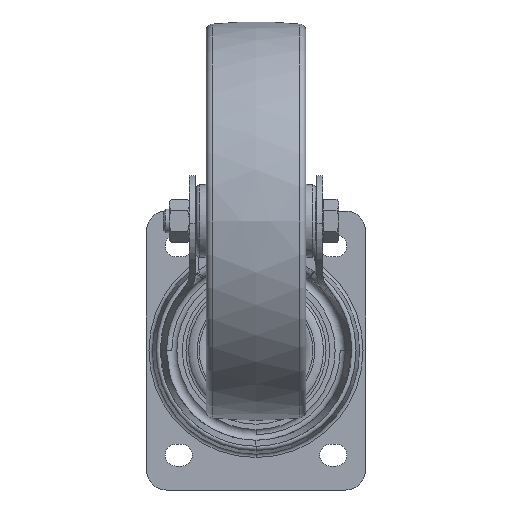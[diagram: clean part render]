
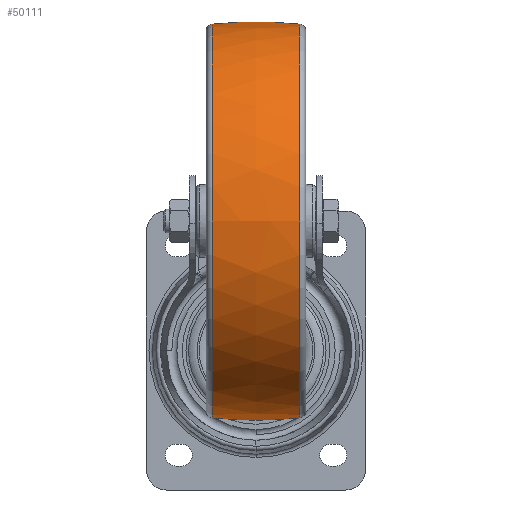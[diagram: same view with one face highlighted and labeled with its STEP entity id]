
A CAD part, front view. The second image highlights one B-rep face of the part: STEP entity #50111.
In plain terms, the highlighted free-form (B-spline) face has degree [3, 3] with [7, 4] control points.
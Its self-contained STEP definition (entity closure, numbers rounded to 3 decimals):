
#914 = DIRECTION ( 'NONE',  ( 0., 1., 0. ) ) ;
#1079 = DIRECTION ( 'NONE',  ( 1., 0., 0. ) ) ;
#2274 = CARTESIAN_POINT ( 'NONE',  ( 7.618, 100.237, -6.306 ) ) ;
#2619 = CIRCLE ( 'NONE', #40605, 98.799 ) ;
#2656 = CARTESIAN_POINT ( 'NONE',  ( -22.755, -102.321, 54.423 ) ) ;
#2663 = VERTEX_POINT ( 'NONE', #57186 ) ;
#2852 = CARTESIAN_POINT ( 'NONE',  ( -22.755, -98.507, -6.198 ) ) ;
#3687 = DIRECTION ( 'NONE',  ( 0.109, -0.994, 0. ) ) ;
#5374 = DIRECTION ( 'NONE',  ( 1., 0., 0. ) ) ;
#5404 = AXIS2_PLACEMENT_3D ( 'NONE', #54007, #5374, #914 ) ;
#5737 = CARTESIAN_POINT ( 'NONE',  ( -21.883, 0., 0. ) ) ;
#6261 = ORIENTED_EDGE ( 'NONE', *, *, #34081, .F. ) ;
#7121 = CARTESIAN_POINT ( 'NONE',  ( -7.618, -100.237, -6.306 ) ) ;
#7704 =( BOUNDED_SURFACE ( )  B_SPLINE_SURFACE ( 3, 3, ( 
 ( #50901, #28738, #2274, #51494 ),
 ( #19724, #55750, #10798, #24107 ),
 ( #55190, #41979, #33397, #37669 ),
 ( #37860, #24881, #42549, #42359 ),
 ( #11174, #11360, #29119, #33596 ),
 ( #2656, #42170, #51102, #15833 ),
 ( #2852, #7121, #16021, #55937 ) ),
 .UNSPECIFIED., .F., .F., .F. ) 
 B_SPLINE_SURFACE_WITH_KNOTS ( ( 4, 3, 4 ),
 ( 4, 4 ),
 ( 0., 1., 2. ),
 ( 0., 1. ),
 .UNSPECIFIED. ) 
 GEOMETRIC_REPRESENTATION_ITEM ( )  RATIONAL_B_SPLINE_SURFACE ( (
 ( 1.191, 1.186, 1.186, 1.191),
 ( 0.941, 0.937, 0.937, 0.941),
 ( 0.941, 0.937, 0.937, 0.941),
 ( 1.191, 1.186, 1.186, 1.191),
 ( 0.941, 0.937, 0.937, 0.941),
 ( 0.941, 0.937, 0.937, 0.941),
 ( 1.191, 1.186, 1.186, 1.191) ) ) 
 REPRESENTATION_ITEM ( '' )  SURFACE ( )  );
#9602 = CARTESIAN_POINT ( 'NONE',  ( -21.883, -98.799, 0. ) ) ;
#10798 = CARTESIAN_POINT ( 'NONE',  ( 7.618, 104.117, 55.379 ) ) ;
#11174 = CARTESIAN_POINT ( 'NONE',  ( -22.755, -60.741, 98.701 ) ) ;
#11360 = CARTESIAN_POINT ( 'NONE',  ( -7.618, -61.807, 100.435 ) ) ;
#13348 = FACE_OUTER_BOUND ( 'NONE', #43746, .T. ) ;
#15833 = CARTESIAN_POINT ( 'NONE',  ( 22.755, -102.321, 54.423 ) ) ;
#16021 = CARTESIAN_POINT ( 'NONE',  ( 7.618, -100.237, -6.306 ) ) ;
#19103 = VERTEX_POINT ( 'NONE', #54308 ) ;
#19724 = CARTESIAN_POINT ( 'NONE',  ( -22.755, 102.321, 54.423 ) ) ;
#22567 = ORIENTED_EDGE ( 'NONE', *, *, #27977, .F. ) ;
#24107 = CARTESIAN_POINT ( 'NONE',  ( 22.755, 102.321, 54.423 ) ) ;
#24881 = CARTESIAN_POINT ( 'NONE',  ( -7.618, 0., 100.435 ) ) ;
#25887 = CARTESIAN_POINT ( 'NONE',  ( 0., 100., 0. ) ) ;
#26085 = EDGE_CURVE ( 'NONE', #2663, #35345, #2619, .T. ) ;
#27977 = EDGE_CURVE ( 'NONE', #19103, #32377, #30118, .T. ) ;
#28581 = AXIS2_PLACEMENT_3D ( 'NONE', #25887, #34797, #3687 ) ;
#28738 = CARTESIAN_POINT ( 'NONE',  ( -7.618, 100.237, -6.306 ) ) ;
#29074 = DIRECTION ( 'NONE',  ( 0., 1., 0. ) ) ;
#29119 = CARTESIAN_POINT ( 'NONE',  ( 7.618, -61.807, 100.435 ) ) ;
#29168 = CARTESIAN_POINT ( 'NONE',  ( 21.883, -98.799, 0. ) ) ;
#30118 = CIRCLE ( 'NONE', #5404, 98.799 ) ;
#30906 = CIRCLE ( 'NONE', #56512, 200. ) ;
#31881 = DIRECTION ( 'NONE',  ( 0.109, 0.994, 0. ) ) ;
#32377 = VERTEX_POINT ( 'NONE', #29168 ) ;
#33397 = CARTESIAN_POINT ( 'NONE',  ( 7.618, 61.807, 100.435 ) ) ;
#33596 = CARTESIAN_POINT ( 'NONE',  ( 22.755, -60.741, 98.701 ) ) ;
#34081 = EDGE_CURVE ( 'NONE', #32377, #35345, #40007, .T. ) ;
#34262 = EDGE_CURVE ( 'NONE', #19103, #2663, #30906, .T. ) ;
#34797 = DIRECTION ( 'NONE',  ( 0., 0., -1. ) ) ;
#35345 = VERTEX_POINT ( 'NONE', #9602 ) ;
#35410 = ORIENTED_EDGE ( 'NONE', *, *, #26085, .T. ) ;
#37669 = CARTESIAN_POINT ( 'NONE',  ( 22.755, 60.741, 98.701 ) ) ;
#37860 = CARTESIAN_POINT ( 'NONE',  ( -22.755, 0., 98.701 ) ) ;
#40007 = CIRCLE ( 'NONE', #28581, 200. ) ;
#40605 = AXIS2_PLACEMENT_3D ( 'NONE', #5737, #1079, #29074 ) ;
#41795 = ORIENTED_EDGE ( 'NONE', *, *, #34262, .T. ) ;
#41979 = CARTESIAN_POINT ( 'NONE',  ( -7.618, 61.807, 100.435 ) ) ;
#42170 = CARTESIAN_POINT ( 'NONE',  ( -7.618, -104.117, 55.379 ) ) ;
#42359 = CARTESIAN_POINT ( 'NONE',  ( 22.755, 0., 98.701 ) ) ;
#42549 = CARTESIAN_POINT ( 'NONE',  ( 7.618, 0., 100.435 ) ) ;
#43746 = EDGE_LOOP ( 'NONE', ( #35410, #6261, #22567, #41795 ) ) ;
#49382 = DIRECTION ( 'NONE',  ( 0., 0., 1. ) ) ;
#50111 = ADVANCED_FACE ( 'NONE', ( #13348 ), #7704, .T. ) ;
#50901 = CARTESIAN_POINT ( 'NONE',  ( -22.755, 98.507, -6.198 ) ) ;
#51102 = CARTESIAN_POINT ( 'NONE',  ( 7.618, -104.117, 55.379 ) ) ;
#51494 = CARTESIAN_POINT ( 'NONE',  ( 22.755, 98.507, -6.198 ) ) ;
#54007 = CARTESIAN_POINT ( 'NONE',  ( 21.883, 0., 0. ) ) ;
#54049 = CARTESIAN_POINT ( 'NONE',  ( 0., -100., 0. ) ) ;
#54308 = CARTESIAN_POINT ( 'NONE',  ( 21.883, 98.799, 0. ) ) ;
#55190 = CARTESIAN_POINT ( 'NONE',  ( -22.755, 60.741, 98.701 ) ) ;
#55750 = CARTESIAN_POINT ( 'NONE',  ( -7.618, 104.117, 55.379 ) ) ;
#55937 = CARTESIAN_POINT ( 'NONE',  ( 22.755, -98.507, -6.198 ) ) ;
#56512 = AXIS2_PLACEMENT_3D ( 'NONE', #54049, #49382, #31881 ) ;
#57186 = CARTESIAN_POINT ( 'NONE',  ( -21.883, 98.799, 0. ) ) ;
